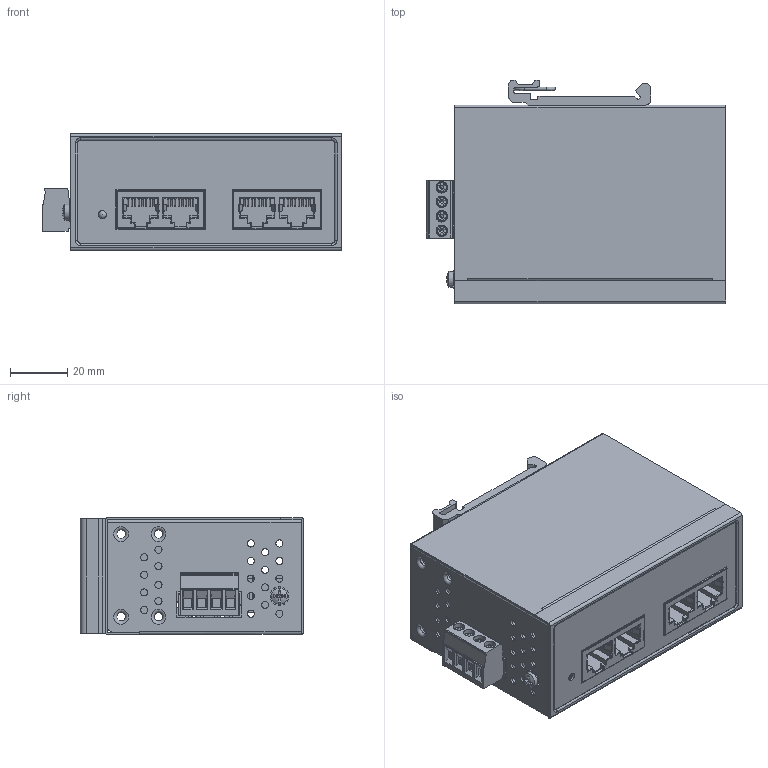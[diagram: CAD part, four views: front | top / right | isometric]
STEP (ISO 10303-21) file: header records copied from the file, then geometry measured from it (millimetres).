
FILE_DESCRIPTION(/* description */ ('STEP AP242 Edition 2','CAx-IF Rec.Pracs.---Representation and Presentation of Product Manufacturing Information (PMI)---4.0---2014-10-13','CAx-IF Rec.Pracs.---3D Tessellated Geometry---0.4---2014-09-14','2;1','CAx-IF Rec.Pracs.---User Defined Attributes---1.5---2016-08-15'),/* implementation_level */ '2;1');
FILE_NAME(/* name */ '696fea2b7f2364f5509e21be',/* time_stamp */ '2026-01-20T20:48:46Z',/* author */ (''),/* organization */ (''),/* preprocessor_version */ 'ST-DEVELOPER v20',/* originating_system */ 'ONSHAPE BY PTC INC, 1.209',/* authorisation */ ' ');
FILE_SCHEMA (('AP242_MANAGED_MODEL_BASED_3D_ENGINEERING_MIM_LF { 1 0 10303 442 3 1 4 }'));
Products named in the file (43): 2 Port Gigabit PoE Injector; PRT0036; PRT0012; PRT0033; PRT0023; PRT0009; BCP_508_4_GN; PRT0010; PRT0011; PRT0015; PH Countersunk flat head screw M3x0.5 x 5; PRT0008; _INJ-102GT-24V; PRT0018; PRT0027; PRT0003; PRT0032; PRT0017; 1508-01-010-0025S_DINRAIL-25; PRT0028; PRT0035; PRT0025; PRT0005; PH Pan head screw M3x0.50 x 5; PRT0016; PRT0004; PRT0013; PRT0034; PRT0002; PRT0021; PRT0014; PRT0019; PRT0026; PRT0024; PRT0001; PRT0006; PRT0007; PRT0031; PRT0030; PRT0020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
Assembly tree (46 placements, depth 2):
  2 Port Gigabit PoE Injector
    PRT0036
    PRT0012
    PRT0033
    PRT0023
    PRT0009
    BCP_508_4_GN
    PRT0010
    PRT0011
    PRT0015
    PH Countersunk flat head screw M3x0.5 x 5  x5
    PRT0008
    _INJ-102GT-24V
    PRT0018
    PRT0027
    PRT0003
    PRT0032
    PRT0017
    1508-01-010-0025S_DINRAIL-25
    PRT0028
    PRT0035
    PRT0025
    PRT0005
    PH Pan head screw M3x0.50 x 5
    PRT0016
    PRT0004
    PRT0013
    PRT0034
    PRT0002
    PRT0021
    PRT0014
    PRT0019
    PRT0026
    PRT0024
    PRT0001
    PRT0006
    PRT0007
    PRT0031
    PRT0030
    PRT0020
    PRT0029
    Type A external tooth lock washer #4
    PRT0022
Bounding box: 104.95 x 78.3 x 41 mm (x, y, z)
Volume: 45320.1 mm3; surface area: 85027.2 mm2
Topology: 46 solids, 46 shells, 3335 faces, 9433 edges, 5998 vertices
Faces by surface type: plane 2079, cylinder 927, torus 163, bspline 116, cone 46, sphere 4
Full cylindrical faces by diameter (mm): 0.45 x128, 0.9 x32, 1.2 x4, 1.4 x4, 2.5 x69, 2.8 x5, 3 x27, 3.124 x1, 4 x7, 4.58 x9, 4.6 x5, 5.3 x4, 5.5 x5, 5.6 x1
Entity records: 116701 total; most frequent: CARTESIAN_POINT 33536, ORIENTED_EDGE 16312, DIRECTION 15725, EDGE_CURVE 8156, LINE 5863, VECTOR 5863, VERTEX_POINT 5439, AXIS2_PLACEMENT_3D 4931
